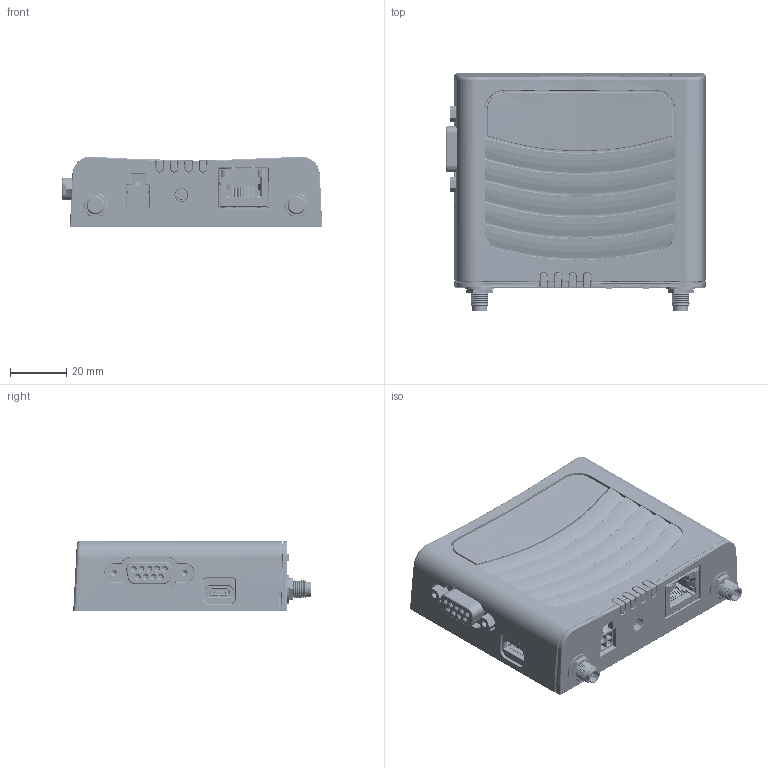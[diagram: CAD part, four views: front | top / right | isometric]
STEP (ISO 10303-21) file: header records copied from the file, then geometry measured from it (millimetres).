
FILE_DESCRIPTION((''),'2;1');
FILE_NAME('LS300_ASM_ASM','2013-07-24T',('smar'),('Sierra Wireless'),'PRO/ENGINEER BY PARAMETRIC TECHNOLOGY CORPORATION, 2011180','PRO/ENGINEER BY PARAMETRIC TECHNOLOGY CORPORATION, 2011180','');
FILE_SCHEMA(('AUTOMOTIVE_DESIGN { 1 0 10303 214 1 1 1 1 }'));
Products named in the file (29): 0000277047; 0000277048; 0000277049; 1302844_ASM_ASM_ASM; 0000277134; 0000277135; 0000277136; 0000277137; 0000277138; 0000277139; 0000277144; 0000277145; 0000277146; 0000277051; 0000277052; 0000277053; 0000277054; 0000277055; 0000277056; 0000277057; 0000277058; 0000277059; 0000277060; 0000277061; 1710695-2_ASM_ASM; 0000277147; 0000277148; 2180061_ASM_ASM_ASM; LS300_ASM_ASM
Assembly tree (35 placements, depth 4):
  LS300_ASM_ASM
    2180061_ASM_ASM_ASM
      0000277047
      0000277048
      1302844_ASM_ASM_ASM
        0000277049
      0000277134
      0000277135  x2
      0000277136  x2
      0000277137
      0000277138  x4
      0000277139  x2
      0000277144
      0000277145  x2
      0000277146
      1710695-2_ASM_ASM
        0000277051
        0000277052
        0000277053
        0000277054
        0000277055
        0000277056
        0000277057
        0000277058
        0000277059
        0000277060
        0000277061
      0000277147
      0000277148
Bounding box: 92.27 x 84.23 x 25.06 mm (x, y, z)
Volume: 49734.7 mm3; surface area: 58949.9 mm2
Topology: 32 solids, 41 shells, 7459 faces, 20208 edges, 12920 vertices
Faces by surface type: plane 4300, cylinder 1857, bspline 561, cone 347, torus 222, sphere 104, extrusion 68
Entity records: 313589 total; most frequent: CARTESIAN_POINT 98640, ORIENTED_EDGE 37682, DIRECTION 31671, EDGE_CURVE 18841, VERTEX_POINT 12109, VECTOR 12105, LINE 12037, PRESENTATION_STYLE_ASSIGNMENT 11455
